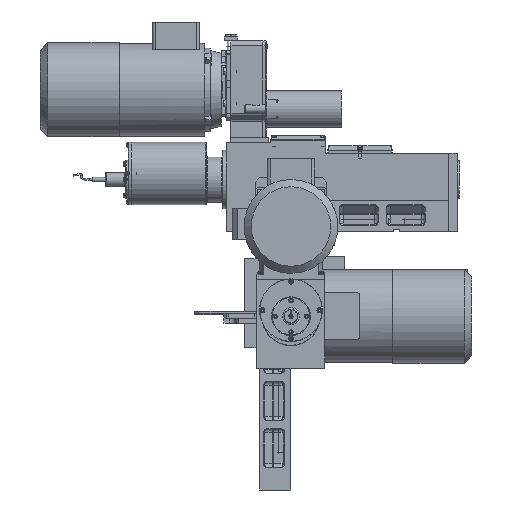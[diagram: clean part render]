
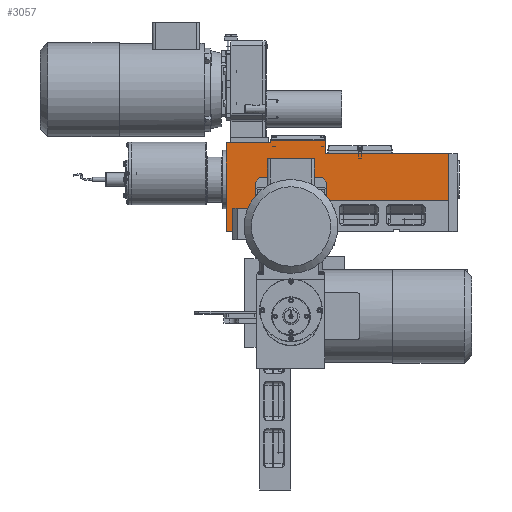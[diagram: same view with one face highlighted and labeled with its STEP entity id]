
A CAD part, front view. The second image highlights one B-rep face of the part: STEP entity #3057.
In plain terms, the highlighted planar face has unit normal (0, -1, 0).
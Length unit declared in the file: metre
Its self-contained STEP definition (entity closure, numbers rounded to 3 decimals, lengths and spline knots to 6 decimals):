
#3057 = ADVANCED_FACE( '', ( #4912 ), #4913, .T. );
#4912 = FACE_OUTER_BOUND( '', #9173, .T. );
#4913 = PLANE( '', #9174 );
#9173 = EDGE_LOOP( '', ( #15013, #15014, #15015, #15016, #15017, #15018, #15019, #15020, #15021, #15022 ) );
#9174 = AXIS2_PLACEMENT_3D( '', #15023, #15024, #15025 );
#15013 = ORIENTED_EDGE( '', *, *, #18987, .T. );
#15014 = ORIENTED_EDGE( '', *, *, #18991, .T. );
#15015 = ORIENTED_EDGE( '', *, *, #18998, .F. );
#15016 = ORIENTED_EDGE( '', *, *, #18976, .T. );
#15017 = ORIENTED_EDGE( '', *, *, #18996, .T. );
#15018 = ORIENTED_EDGE( '', *, *, #18983, .T. );
#15019 = ORIENTED_EDGE( '', *, *, #18966, .T. );
#15020 = ORIENTED_EDGE( '', *, *, #18969, .T. );
#15021 = ORIENTED_EDGE( '', *, *, #18997, .T. );
#15022 = ORIENTED_EDGE( '', *, *, #18993, .T. );
#15023 = CARTESIAN_POINT( '', ( 0.337, -0.003889, 0. ) );
#15024 = DIRECTION( '', ( 0., -1., 0. ) );
#15025 = DIRECTION( '', ( 1., 0., 0. ) );
#18966 = EDGE_CURVE( '', #21799, #21797, #21800, .T. );
#18969 = EDGE_CURVE( '', #21797, #21802, #21804, .T. );
#18976 = EDGE_CURVE( '', #21816, #21814, #21817, .T. );
#18983 = EDGE_CURVE( '', #21826, #21799, #21827, .T. );
#18987 = EDGE_CURVE( '', #21833, #21834, #21835, .T. );
#18991 = EDGE_CURVE( '', #21834, #21838, #21840, .T. );
#18993 = EDGE_CURVE( '', #21841, #21833, #21843, .T. );
#18996 = EDGE_CURVE( '', #21814, #21826, #21846, .T. );
#18997 = EDGE_CURVE( '', #21802, #21841, #21847, .T. );
#18998 = EDGE_CURVE( '', #21816, #21838, #21848, .T. );
#21797 = VERTEX_POINT( '', #27381 );
#21799 = VERTEX_POINT( '', #27384 );
#21800 = LINE( '', #27385, #27386 );
#21802 = VERTEX_POINT( '', #27389 );
#21804 = LINE( '', #27392, #27393 );
#21814 = VERTEX_POINT( '', #27408 );
#21816 = VERTEX_POINT( '', #27411 );
#21817 = LINE( '', #27412, #27413 );
#21826 = VERTEX_POINT( '', #27428 );
#21827 = LINE( '', #27429, #27430 );
#21833 = VERTEX_POINT( '', #27439 );
#21834 = VERTEX_POINT( '', #27440 );
#21835 = LINE( '', #27441, #27442 );
#21838 = VERTEX_POINT( '', #27447 );
#21840 = LINE( '', #27450, #27451 );
#21841 = VERTEX_POINT( '', #27452 );
#21843 = LINE( '', #27455, #27456 );
#21846 = LINE( '', #27461, #27462 );
#21847 = LINE( '', #27463, #27464 );
#21848 = LINE( '', #27465, #27466 );
#27381 = CARTESIAN_POINT( '', ( 0.102, -0.003889, 0.09 ) );
#27384 = CARTESIAN_POINT( '', ( 0.337, -0.003889, 0.09 ) );
#27385 = CARTESIAN_POINT( '', ( -0.005, -0.003889, 0.09 ) );
#27386 = VECTOR( '', #31115, 1. );
#27389 = CARTESIAN_POINT( '', ( 0.102, -0.003889, 0.115 ) );
#27392 = CARTESIAN_POINT( '', ( 0.102, -0.003889, 0.09 ) );
#27393 = VECTOR( '', #31118, 1. );
#27408 = CARTESIAN_POINT( '', ( -0.005, -0.003889, 0. ) );
#27411 = CARTESIAN_POINT( '', ( -0.005, -0.003889, -0.059 ) );
#27412 = CARTESIAN_POINT( '', ( -0.005, -0.003889, -0.059 ) );
#27413 = VECTOR( '', #31125, 1. );
#27428 = CARTESIAN_POINT( '', ( 0.337, -0.003889, 0. ) );
#27429 = CARTESIAN_POINT( '', ( 0.337, -0.003889, 0. ) );
#27430 = VECTOR( '', #31132, 1. );
#27439 = CARTESIAN_POINT( '', ( -0.003, -0.003889, 0.11 ) );
#27440 = CARTESIAN_POINT( '', ( -0.088, -0.003889, 0.11 ) );
#27441 = CARTESIAN_POINT( '', ( 0.14575, -0.003889, 0.11 ) );
#27442 = VECTOR( '', #31136, 1. );
#27447 = CARTESIAN_POINT( '', ( -0.088, -0.003889, -0.059 ) );
#27450 = CARTESIAN_POINT( '', ( -0.088, -0.003889, -0.059 ) );
#27451 = VECTOR( '', #31140, 1. );
#27452 = CARTESIAN_POINT( '', ( -0.003, -0.003889, 0.115 ) );
#27455 = CARTESIAN_POINT( '', ( -0.003, -0.003889, 0.058735 ) );
#27456 = VECTOR( '', #31142, 1. );
#27461 = CARTESIAN_POINT( '', ( -0.005, -0.003889, 0. ) );
#27462 = VECTOR( '', #31145, 1. );
#27463 = CARTESIAN_POINT( '', ( -0.005, -0.003889, 0.115 ) );
#27464 = VECTOR( '', #31146, 1. );
#27465 = CARTESIAN_POINT( '', ( -0.005, -0.003889, -0.059 ) );
#27466 = VECTOR( '', #31147, 1. );
#31115 = DIRECTION( '', ( -1., 0., 0. ) );
#31118 = DIRECTION( '', ( 0., 0., 1. ) );
#31125 = DIRECTION( '', ( 0., 0., 1. ) );
#31132 = DIRECTION( '', ( 0., 0., 1. ) );
#31136 = DIRECTION( '', ( -1., 0., 0. ) );
#31140 = DIRECTION( '', ( 0., 0., -1. ) );
#31142 = DIRECTION( '', ( 0., 0., -1. ) );
#31145 = DIRECTION( '', ( 1., 0., 0. ) );
#31146 = DIRECTION( '', ( -1., 0., 0. ) );
#31147 = DIRECTION( '', ( -1., 0., 0. ) );
